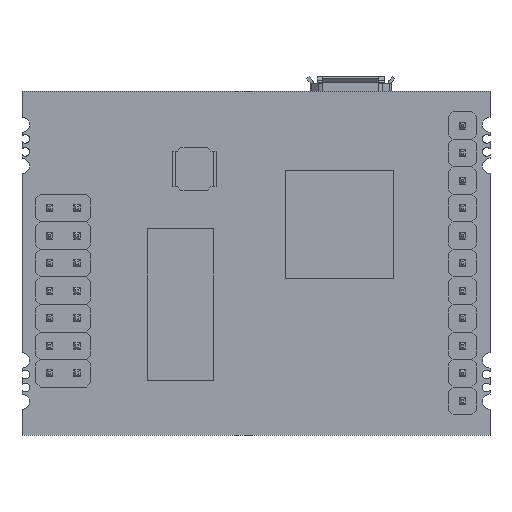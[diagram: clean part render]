
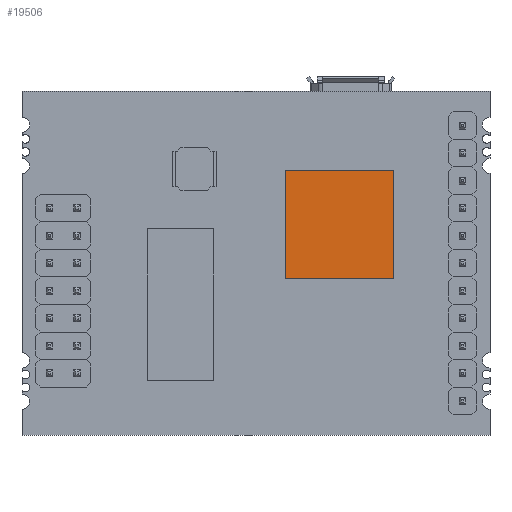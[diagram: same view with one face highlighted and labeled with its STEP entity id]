
A CAD part, front view. The second image highlights one B-rep face of the part: STEP entity #19506.
In plain terms, the highlighted planar face has unit normal (0, -1, 0) as drawn and (0, 1, 0) by its records, which use the part's own axes.
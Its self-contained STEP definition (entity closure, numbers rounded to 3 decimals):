
#19391=DIRECTION('',(0.,0.,1.));
#19392=VECTOR('',#19391,10.);
#19393=CARTESIAN_POINT('',(-5.,1.6,-5.));
#19394=LINE('',#19393,#19392);
#19395=DIRECTION('',(-1.,0.,0.));
#19396=VECTOR('',#19395,10.);
#19397=CARTESIAN_POINT('',(5.,1.6,-5.));
#19398=LINE('',#19397,#19396);
#19399=DIRECTION('',(0.,0.,-1.));
#19400=VECTOR('',#19399,10.);
#19401=CARTESIAN_POINT('',(5.,1.6,5.));
#19402=LINE('',#19401,#19400);
#19403=DIRECTION('',(1.,0.,0.));
#19404=VECTOR('',#19403,10.);
#19405=CARTESIAN_POINT('',(-5.,1.6,5.));
#19406=LINE('',#19405,#19404);
#19415=CARTESIAN_POINT('',(-5.,1.6,-5.));
#19416=CARTESIAN_POINT('',(-5.,1.6,5.));
#19417=VERTEX_POINT('',#19415);
#19418=VERTEX_POINT('',#19416);
#19419=CARTESIAN_POINT('',(5.,1.6,5.));
#19420=VERTEX_POINT('',#19419);
#19421=CARTESIAN_POINT('',(5.,1.6,-5.));
#19422=VERTEX_POINT('',#19421);
#19495=CARTESIAN_POINT('',(0.,1.6,0.));
#19496=DIRECTION('',(0.,1.,0.));
#19497=DIRECTION('',(1.,0.,0.));
#19498=AXIS2_PLACEMENT_3D('',#19495,#19496,#19497);
#19499=PLANE('',#19498);
#19500=ORIENTED_EDGE('',*,*,#19447,.F.);
#19501=ORIENTED_EDGE('',*,*,#19462,.F.);
#19502=ORIENTED_EDGE('',*,*,#19476,.F.);
#19503=ORIENTED_EDGE('',*,*,#19489,.F.);
#19504=EDGE_LOOP('',(#19500,#19501,#19502,#19503));
#19505=FACE_OUTER_BOUND('',#19504,.F.);
#19447=EDGE_CURVE('',#19417,#19418,#19394,.T.);
#19462=EDGE_CURVE('',#19422,#19417,#19398,.T.);
#19476=EDGE_CURVE('',#19420,#19422,#19402,.T.);
#19489=EDGE_CURVE('',#19418,#19420,#19406,.T.);
#19506=ADVANCED_FACE('',(#19505),#19499,.T.);
